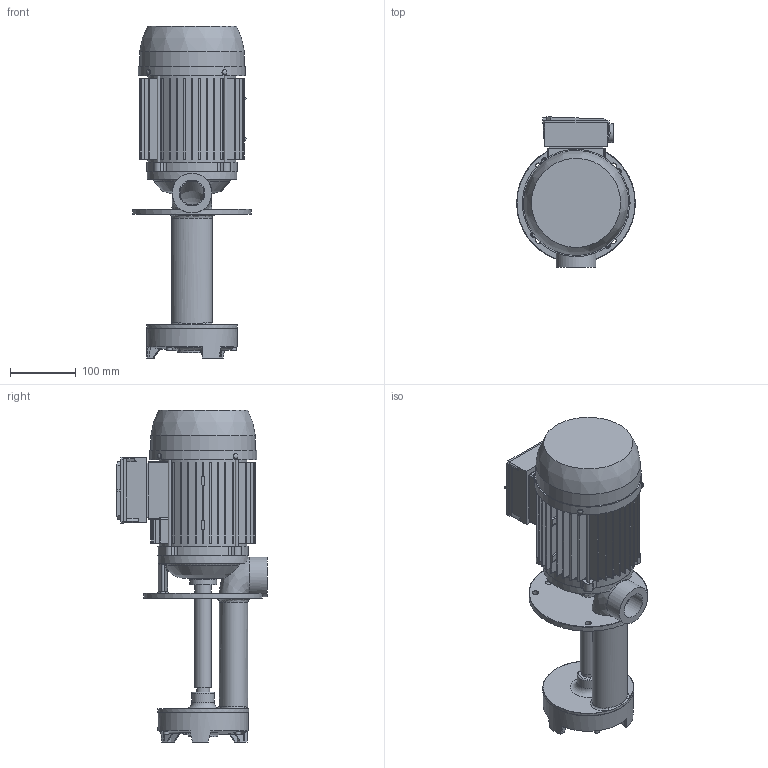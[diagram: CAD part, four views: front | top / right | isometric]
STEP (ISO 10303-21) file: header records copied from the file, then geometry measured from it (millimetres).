
FILE_DESCRIPTION(/* description */ (''),/* implementation_level */ '2;1');
FILE_NAME(/* name */ 'P:\3D PER CLIENTI\POMPE\SP\YT80SPB++200.stp',/* time_stamp */ '2019-05-27T09:34:05+02:00',/* author */ ('vgiaretta'),/* organization */ (''),/* preprocessor_version */ 'ST-DEVELOPER v17.2',/* originating_system */ 'Autodesk Inventor 2019',/* authorisation */ '');
FILE_SCHEMA (('AUTOMOTIVE_DESIGN { 1 0 10303 214 3 1 1 }'));
Length unit declared in the file: millimetre
Products named in the file (1): YT80SPB++200_Shrinkwrap_1
Bounding box: 180.26 x 227.93 x 503.98 mm (x, y, z)
Volume: 5657486.8 mm3; surface area: 484393 mm2
Topology: 1 solids, 1 shells, 1044 faces, 2833 edges, 1876 vertices
Faces by surface type: plane 523, cylinder 402, bspline 81, sphere 14, torus 13, cone 11
Full cylindrical faces by diameter (mm): 4.38 x4, 8 x3, 9 x4, 18.6 x1, 20 x1, 23.5 x1, 24.8 x2, 28.3 x1, 28.4 x1, 34 x1, 36.4 x1, 38.952 x1, 41 x1, 44.6 x1, 60.4 x1, 133.8 x1, 136.5 x1, 137 x1, 138 x1, 140 x1, 158.99 x1, 180.26 x1
Entity records: 39957 total; most frequent: CARTESIAN_POINT 13056, ORIENTED_EDGE 5670, DIRECTION 4880, EDGE_CURVE 2835, VERTEX_POINT 1876, AXIS2_PLACEMENT_3D 1646, LINE 1588, VECTOR 1588
